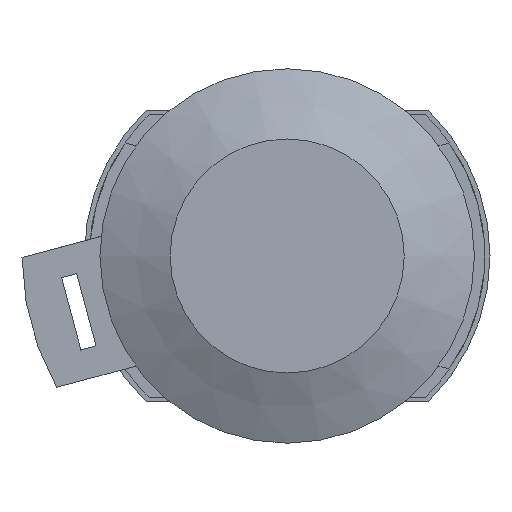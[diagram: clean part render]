
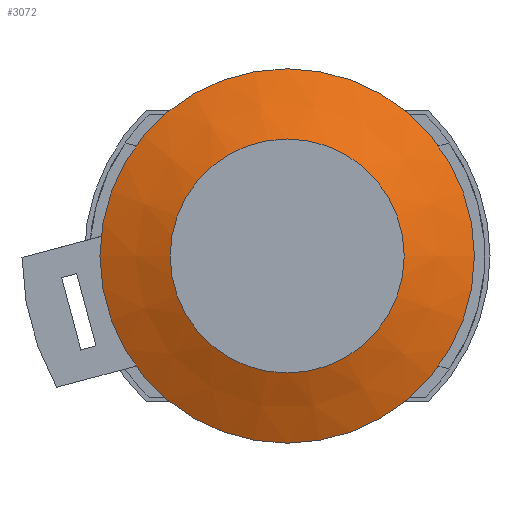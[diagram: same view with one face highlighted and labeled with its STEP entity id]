
A CAD part, left-side view. The second image highlights one B-rep face of the part: STEP entity #3072.
In plain terms, the highlighted conical face has half-angle 66.038 degrees and reference radius 18 mm.
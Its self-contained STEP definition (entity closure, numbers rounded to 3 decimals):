
#1104 = EDGE_CURVE ( 'NONE', #11013, #11013, #6087, .T. ) ;
#1108 = EDGE_CURVE ( 'NONE', #11019, #11019, #6093, .T. ) ;
#3072 = ADVANCED_FACE ( 'NONE', ( #8430, #8428 ), #8426, .T. ) ;
#3282 = ORIENTED_EDGE ( 'NONE', *, *, #1104, .T. ) ;
#3283 = ORIENTED_EDGE ( 'NONE', *, *, #1108, .F. ) ;
#4975 = AXIS2_PLACEMENT_3D ( 'NONE', #6760, #6767, #6768 ) ;
#4978 = AXIS2_PLACEMENT_3D ( 'NONE', #6771, #6776, #6777 ) ;
#5335 = AXIS2_PLACEMENT_3D ( 'NONE', #10303, #10304, #10281 ) ;
#5586 = EDGE_LOOP ( 'NONE', ( #3283 ) ) ;
#5592 = EDGE_LOOP ( 'NONE', ( #3282 ) ) ;
#6087 = CIRCLE ( 'NONE', #4975, 11.25 ) ;
#6093 = CIRCLE ( 'NONE', #4978, 18. ) ;
#6760 = CARTESIAN_POINT ( 'NONE',  ( -13., 0., 0. ) ) ;
#6767 = DIRECTION ( 'NONE',  ( 1., 0., 0. ) ) ;
#6768 = DIRECTION ( 'NONE',  ( 0., 1., 0. ) ) ;
#6771 = CARTESIAN_POINT ( 'NONE',  ( -10., 0., 0. ) ) ;
#6776 = DIRECTION ( 'NONE',  ( 1., 0., 0. ) ) ;
#6777 = DIRECTION ( 'NONE',  ( 0., 1., 0. ) ) ;
#8426 = CONICAL_SURFACE ( 'NONE', #5335, 18., 1.153 ) ;
#8428 = FACE_OUTER_BOUND ( 'NONE', #5586, .T. ) ;
#8430 = FACE_BOUND ( 'NONE', #5592, .T. ) ;
#10281 = DIRECTION ( 'NONE',  ( 0., 1., 0. ) ) ;
#10303 = CARTESIAN_POINT ( 'NONE',  ( -10., 0., 0. ) ) ;
#10304 = DIRECTION ( 'NONE',  ( 1., 0., 0. ) ) ;
#11013 = VERTEX_POINT ( 'NONE', #11014 ) ;
#11014 = CARTESIAN_POINT ( 'NONE',  ( -13., 11.25, 0. ) ) ;
#11019 = VERTEX_POINT ( 'NONE', #11020 ) ;
#11020 = CARTESIAN_POINT ( 'NONE',  ( -10., 18., 0. ) ) ;
